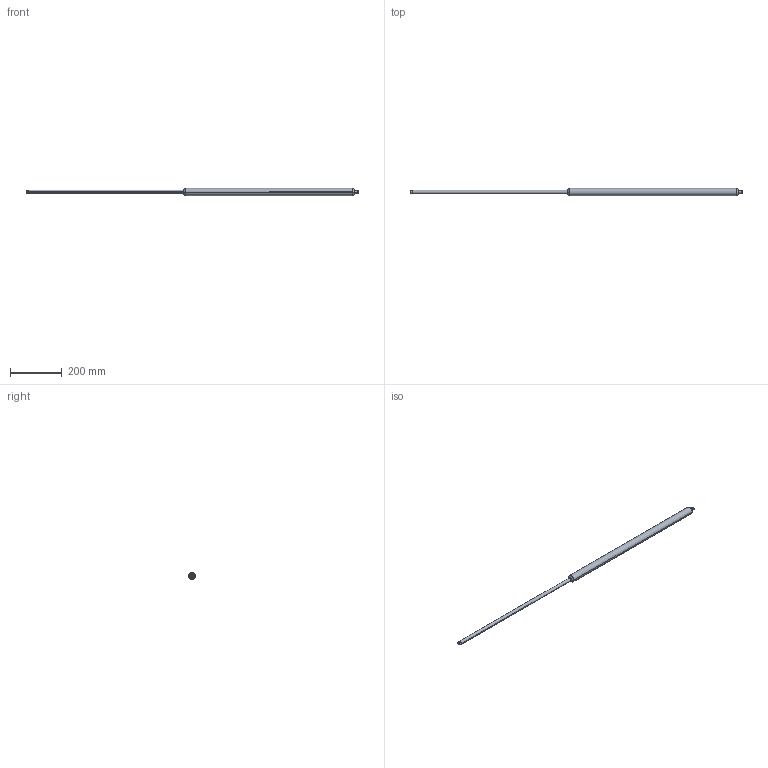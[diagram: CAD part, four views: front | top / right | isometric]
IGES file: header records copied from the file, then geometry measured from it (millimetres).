
Start section: SolidWorks IGES file using analytic representation for surfaces
Global section: file name: Z:\7-3D図面\01.図面\01.L\外形図\Ｇ／Ｓ\20170710(最新)\カタログ用\IGES\FGS-28-600-BB.IGS; native system: SolidWorks 2016; preprocessor: SolidWorks 2016; author: flgijutsu; date: 170710.171843; units: millimetre
Bounding box: 1284 x 28 x 28 mm (x, y, z)
Surface area: 86214.5 mm2 (no closed solid volume)
Topology: 0 solids, 0 shells, 25 faces, 336 edges, 336 vertices
Faces by surface type: revolution 16, bspline 9
